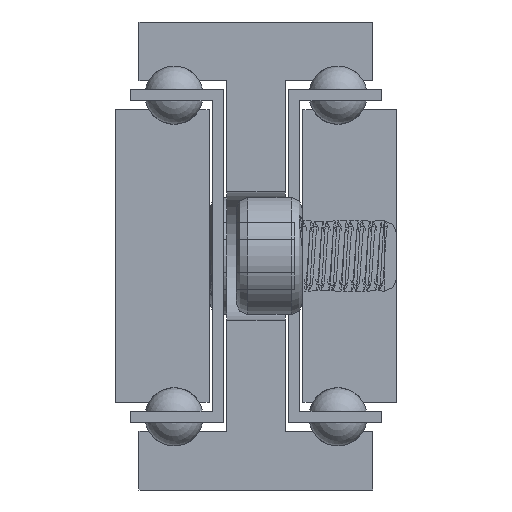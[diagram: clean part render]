
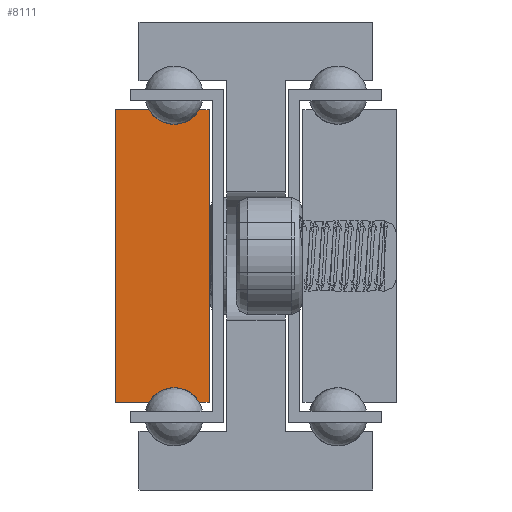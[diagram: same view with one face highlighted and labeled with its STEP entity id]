
A CAD part, front view. The second image highlights one B-rep face of the part: STEP entity #8111.
In plain terms, the highlighted planar face has unit normal (0, -1, 0).
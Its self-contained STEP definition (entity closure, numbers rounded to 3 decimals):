
#288=LINE('',#11710,#1122);
#291=LINE('',#11716,#1125);
#295=LINE('',#11728,#1129);
#298=LINE('',#11734,#1132);
#301=LINE('',#11740,#1135);
#305=LINE('',#11750,#1139);
#1122=VECTOR('',#9442,1.);
#1125=VECTOR('',#9447,1.);
#1129=VECTOR('',#9459,1.);
#1132=VECTOR('',#9464,1.);
#1135=VECTOR('',#9469,1.);
#1139=VECTOR('',#9481,1.);
#1961=PLANE('',#8713);
#2529=FACE_OUTER_BOUND('',#3043,.T.);
#3043=EDGE_LOOP('',(#5926,#5927,#5928,#5929,#5930,#5931,#5932,#5933));
#3735=CIRCLE('',#8704,2.5);
#3737=CIRCLE('',#8710,2.5);
#3962=VERTEX_POINT('',#11707);
#3963=VERTEX_POINT('',#11709);
#3965=VERTEX_POINT('',#11715);
#3967=VERTEX_POINT('',#11721);
#3969=VERTEX_POINT('',#11727);
#3971=VERTEX_POINT('',#11733);
#3973=VERTEX_POINT('',#11739);
#3975=VERTEX_POINT('',#11745);
#4800=EDGE_CURVE('',#3963,#3962,#288,.T.);
#4803=EDGE_CURVE('',#3965,#3963,#291,.T.);
#4806=EDGE_CURVE('',#3967,#3965,#3735,.T.);
#4809=EDGE_CURVE('',#3969,#3967,#295,.T.);
#4812=EDGE_CURVE('',#3971,#3969,#298,.T.);
#4815=EDGE_CURVE('',#3973,#3971,#301,.T.);
#4818=EDGE_CURVE('',#3975,#3973,#3737,.T.);
#4821=EDGE_CURVE('',#3962,#3975,#305,.T.);
#5926=ORIENTED_EDGE('',*,*,#4821,.T.);
#5927=ORIENTED_EDGE('',*,*,#4818,.T.);
#5928=ORIENTED_EDGE('',*,*,#4815,.T.);
#5929=ORIENTED_EDGE('',*,*,#4812,.T.);
#5930=ORIENTED_EDGE('',*,*,#4809,.T.);
#5931=ORIENTED_EDGE('',*,*,#4806,.T.);
#5932=ORIENTED_EDGE('',*,*,#4803,.T.);
#5933=ORIENTED_EDGE('',*,*,#4800,.T.);
#8111=ADVANCED_FACE('',(#2529),#1961,.T.);
#8704=AXIS2_PLACEMENT_3D('',#11722,#9453,#9454);
#8710=AXIS2_PLACEMENT_3D('',#11746,#9475,#9476);
#8713=AXIS2_PLACEMENT_3D('',#11752,#9484,#9485);
#9442=DIRECTION('',(0.,0.,-1.));
#9447=DIRECTION('',(-1.,0.,0.));
#9453=DIRECTION('center_axis',(0.,1.,0.));
#9454=DIRECTION('ref_axis',(-0.866,0.,-0.5));
#9459=DIRECTION('',(-1.,0.,0.));
#9464=DIRECTION('',(0.,0.,1.));
#9469=DIRECTION('',(1.,0.,0.));
#9475=DIRECTION('center_axis',(0.,1.,0.));
#9476=DIRECTION('ref_axis',(0.866,0.,0.5));
#9481=DIRECTION('',(1.,0.,0.));
#9484=DIRECTION('center_axis',(0.,-1.,0.));
#9485=DIRECTION('ref_axis',(1.,0.,0.));
#11707=CARTESIAN_POINT('',(2011.406,1469.949,387.5));
#11709=CARTESIAN_POINT('',(2011.406,1469.949,412.5));
#11710=CARTESIAN_POINT('',(2011.406,1469.949,387.5));
#11715=CARTESIAN_POINT('',(2014.241,1469.949,412.5));
#11716=CARTESIAN_POINT('',(2011.406,1469.949,412.5));
#11721=CARTESIAN_POINT('',(2018.571,1469.949,412.5));
#11722=CARTESIAN_POINT('Origin',(2016.406,1469.949,413.75));
#11727=CARTESIAN_POINT('',(2019.406,1469.949,412.5));
#11728=CARTESIAN_POINT('',(2018.571,1469.949,412.5));
#11733=CARTESIAN_POINT('',(2019.406,1469.949,387.5));
#11734=CARTESIAN_POINT('',(2019.406,1469.949,412.5));
#11739=CARTESIAN_POINT('',(2018.571,1469.949,387.5));
#11740=CARTESIAN_POINT('',(2019.406,1469.949,387.5));
#11745=CARTESIAN_POINT('',(2014.241,1469.949,387.5));
#11746=CARTESIAN_POINT('Origin',(2016.406,1469.949,386.25));
#11750=CARTESIAN_POINT('',(2014.241,1469.949,387.5));
#11752=CARTESIAN_POINT('Origin',(2015.393,1469.949,400.));
